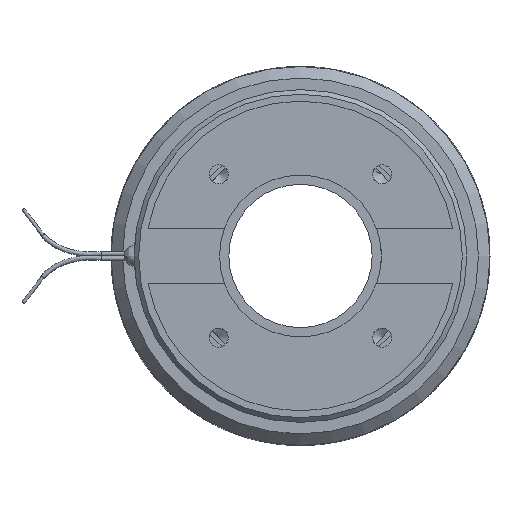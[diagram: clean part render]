
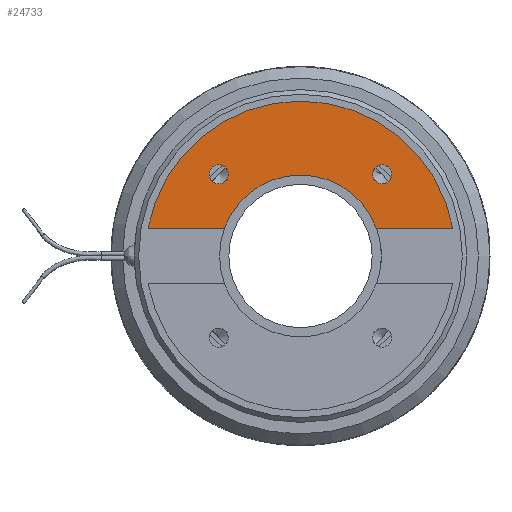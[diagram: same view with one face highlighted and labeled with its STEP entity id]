
A CAD part, left-side view. The second image highlights one B-rep face of the part: STEP entity #24733.
In plain terms, the highlighted planar face has unit normal (-1, 0, 0).
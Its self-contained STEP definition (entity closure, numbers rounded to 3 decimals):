
#1745=FACE_BOUND('',#5143,.T.);
#1746=FACE_BOUND('',#5144,.T.);
#2418=PLANE('',#27928);
#3754=FACE_OUTER_BOUND('',#5142,.T.);
#5142=EDGE_LOOP('',(#20959,#20960,#20961,#20962));
#5143=EDGE_LOOP('',(#20963));
#5144=EDGE_LOOP('',(#20964));
#6463=CIRCLE('',#27908,2.067);
#6471=CIRCLE('',#27920,2.067);
#6476=CIRCLE('',#27929,17.5);
#6477=CIRCLE('',#27930,33.5);
#7446=LINE('',#46664,#8809);
#7447=LINE('',#46668,#8810);
#8809=VECTOR('',#35089,10.);
#8810=VECTOR('',#35092,10.);
#11384=VERTEX_POINT('',#46625);
#11388=VERTEX_POINT('',#46643);
#11393=VERTEX_POINT('',#46662);
#11394=VERTEX_POINT('',#46663);
#11395=VERTEX_POINT('',#46665);
#11396=VERTEX_POINT('',#46667);
#14741=EDGE_CURVE('',#11384,#11384,#6463,.T.);
#14751=EDGE_CURVE('',#11388,#11388,#6471,.T.);
#14761=EDGE_CURVE('',#11393,#11394,#7446,.T.);
#14762=EDGE_CURVE('',#11394,#11395,#6476,.T.);
#14763=EDGE_CURVE('',#11395,#11396,#7447,.T.);
#14764=EDGE_CURVE('',#11393,#11396,#6477,.T.);
#20959=ORIENTED_EDGE('',*,*,#14761,.T.);
#20960=ORIENTED_EDGE('',*,*,#14762,.T.);
#20961=ORIENTED_EDGE('',*,*,#14763,.T.);
#20962=ORIENTED_EDGE('',*,*,#14764,.F.);
#20963=ORIENTED_EDGE('',*,*,#14741,.T.);
#20964=ORIENTED_EDGE('',*,*,#14751,.T.);
#24733=ADVANCED_FACE('',(#3754,#1745,#1746),#2418,.T.);
#27908=AXIS2_PLACEMENT_3D('',#46626,#35040,#35041);
#27920=AXIS2_PLACEMENT_3D('',#46644,#35066,#35067);
#27928=AXIS2_PLACEMENT_3D('',#46661,#35087,#35088);
#27929=AXIS2_PLACEMENT_3D('',#46666,#35090,#35091);
#27930=AXIS2_PLACEMENT_3D('',#46669,#35093,#35094);
#35040=DIRECTION('center_axis',(1.,0.,0.));
#35041=DIRECTION('ref_axis',(0.,0.,1.));
#35066=DIRECTION('center_axis',(1.,0.,0.));
#35067=DIRECTION('ref_axis',(0.,0.,1.));
#35087=DIRECTION('center_axis',(-1.,0.,0.));
#35088=DIRECTION('ref_axis',(0.,0.,1.));
#35089=DIRECTION('',(0.,-1.,0.));
#35090=DIRECTION('center_axis',(1.,0.,0.));
#35091=DIRECTION('ref_axis',(0.,0.,-1.));
#35092=DIRECTION('',(0.,-1.,0.));
#35093=DIRECTION('center_axis',(1.,0.,0.));
#35094=DIRECTION('ref_axis',(0.,0.,-1.));
#46625=CARTESIAN_POINT('',(-13.1,17.678,15.611));
#46626=CARTESIAN_POINT('Origin',(-13.1,17.678,17.678));
#46643=CARTESIAN_POINT('',(-13.1,-17.678,15.611));
#46644=CARTESIAN_POINT('Origin',(-13.1,-17.678,17.678));
#46661=CARTESIAN_POINT('Origin',(-13.1,33.5,0.));
#46662=CARTESIAN_POINT('',(-13.1,32.958,6.));
#46663=CARTESIAN_POINT('',(-13.1,16.439,6.));
#46664=CARTESIAN_POINT('',(-13.1,33.5,6.));
#46665=CARTESIAN_POINT('',(-13.1,-16.439,6.));
#46666=CARTESIAN_POINT('Origin',(-13.1,0.,0.));
#46667=CARTESIAN_POINT('',(-13.1,-32.958,6.));
#46668=CARTESIAN_POINT('',(-13.1,33.5,6.));
#46669=CARTESIAN_POINT('Origin',(-13.1,0.,0.));
